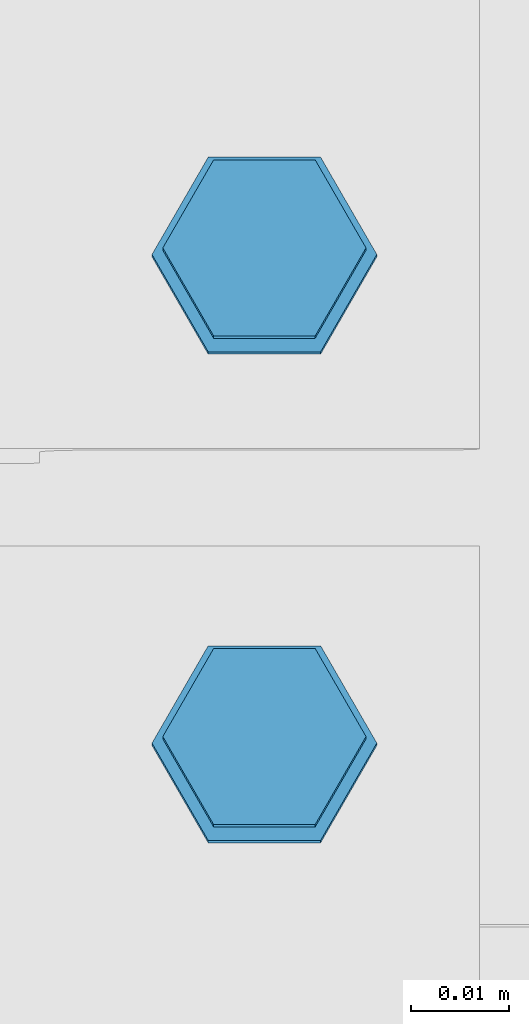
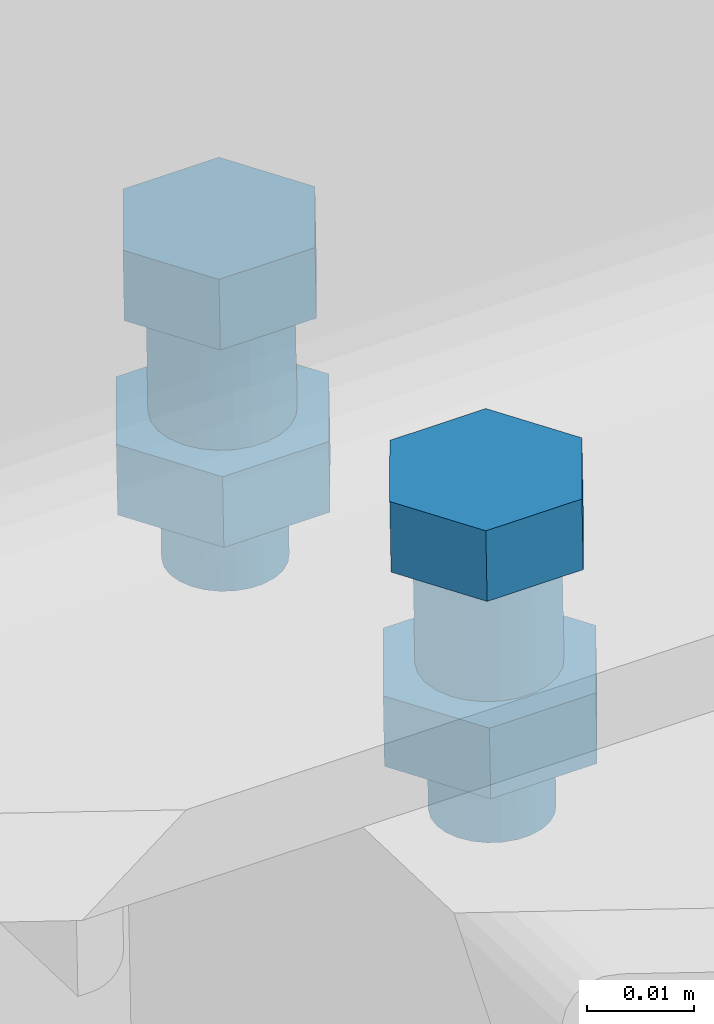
# One storey, part 233 of 362: 2 mechanical fasteners.
"""IFC2X3 building model written with IfcOpenShell, lengths in millimetres."""

from ifc_helpers import new_model, si_unit, frame, origin_with_axes, origin_2d_with_axis, place, context, subcontext, project, spatial, polyline, circle, outline, extrude, source, transform, mapped, material, type_object, element, save


model = new_model("IFC2X3")

# Units and contexts
model_context = context("Model", 3, precision=1e-05, world=origin_with_axes())
body_context = subcontext(model_context, "Body", "Model", "MODEL_VIEW")
ifc_project = project(units=[si_unit("LENGTHUNIT", "METRE", prefix="MILLI"), si_unit("AREAUNIT", "SQUARE_METRE"), si_unit("VOLUMEUNIT", "CUBIC_METRE"), si_unit("MASSUNIT", "GRAM", prefix="KILO"), si_unit("TIMEUNIT", "SECOND"), si_unit("PLANEANGLEUNIT", "RADIAN"), si_unit("SOLIDANGLEUNIT", "STERADIAN"), si_unit("THERMODYNAMICTEMPERATUREUNIT", "DEGREE_CELSIUS"), si_unit("LUMINOUSINTENSITYUNIT", "LUMEN")], contexts=[model_context])

# Site, building, storey
site_placement = place(None, origin_with_axes())
site = spatial("IfcSite", under=ifc_project, at=site_placement, Name="Undefined", CompositionType="ELEMENT")
building_placement = place(site_placement, origin_with_axes())
building = spatial("IfcBuilding", under=site, at=building_placement, Name="Undefined", CompositionType="ELEMENT")
storey_placement = place(building_placement, origin_with_axes())
storey = spatial("IfcBuildingStorey", under=building, at=storey_placement, Name="Undefined", CompositionType="ELEMENT", Elevation=0.0)

# Mechanical fasteners
ifc_material = material(Name="8.8-SB-ZINGUE")
mechanical_fastener_type = type_object("IfcMechanicalFastenerType", Name="Bolt assembly")
shared_shape = source(origin_with_axes(), body_context, "Body", "SweptSolid", [
    extrude(circle(Radius=7.0, at=origin_2d_with_axis()), frame((0.0, -8.39654616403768, 0.0), z_axis=(0.0, 1.0, 0.0), x_axis=(1.0, 0.0, 0.0)), (0.0, 0.0, 1.0), 8.5),
    extrude(circle(Radius=7.0, at=origin_2d_with_axis()), frame((0.0, -0.100011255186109, 0.0), z_axis=(0.0, 1.0, 0.0), x_axis=(1.0, 0.0, 0.0)), (0.0, 0.0, 1.0), 5.1),
    extrude(outline(polyline([(10.39230484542, 0.0), (5.19615242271, 9.00000000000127), (-5.19615242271, 9.00000000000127), (-10.39230484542, 0.0), (-5.19615242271, -9.00000000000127), (5.19615242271, -9.00000000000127), (10.39230484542, 0.0)])), frame((0.0, -16.4165461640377, 0.0), z_axis=(0.0, 1.0, 0.0), x_axis=(1.0, 0.0, 0.0)), (0.0, 0.0, 1.0), 7.92),
    extrude(circle(Radius=6.0, at=origin_2d_with_axis()), frame((0.0, -8.49654616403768, 0.0), z_axis=(0.0, 1.0, 0.0), x_axis=(1.0, 0.0, 0.0)), (0.0, 0.0, 1.0), 30.0),
    extrude(outline(polyline([(11.5008173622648, 0.0), (5.7504086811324, 9.96000000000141), (-5.7504086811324, 9.96000000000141), (-11.5008173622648, 0.0), (-5.7504086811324, -9.96000000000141), (5.7504086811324, -9.96000000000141), (11.5008173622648, 0.0)])), frame((0.0, 5.0, 0.0), z_axis=(0.0, 1.0, 0.0), x_axis=(1.0, 0.0, 0.0)), (0.0, 0.0, 1.0), 7.92),
])
for number, where, z_axis, x_axis, name in (
    (1, (2135.00001266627, 7621.85063595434, 7610.37835678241), (0.0, -0.999506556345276, 0.031410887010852), (-1.0, 0.0, 0.0), "Bolt assembly"),
    (2, (2135.00001266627, 7571.871322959, 7611.94904293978), (0.0, -0.999506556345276, 0.031410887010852), (-1.0, 0.0, 0.0), "Bolt assembly"),
):
    element("IfcMechanicalFastener", number, at=place(storey_placement, frame(where, z_axis=z_axis, x_axis=x_axis)), inside=storey, type_object=mechanical_fastener_type, material=ifc_material, Name=name, NominalDiameter=12.0, NominalLength=30.0, context=body_context, shape_type="MappedRepresentation", body=[
        mapped(shared_shape, transform((0.0, 0.0, 0.0))),
    ])

save(model, "model.ifc")
